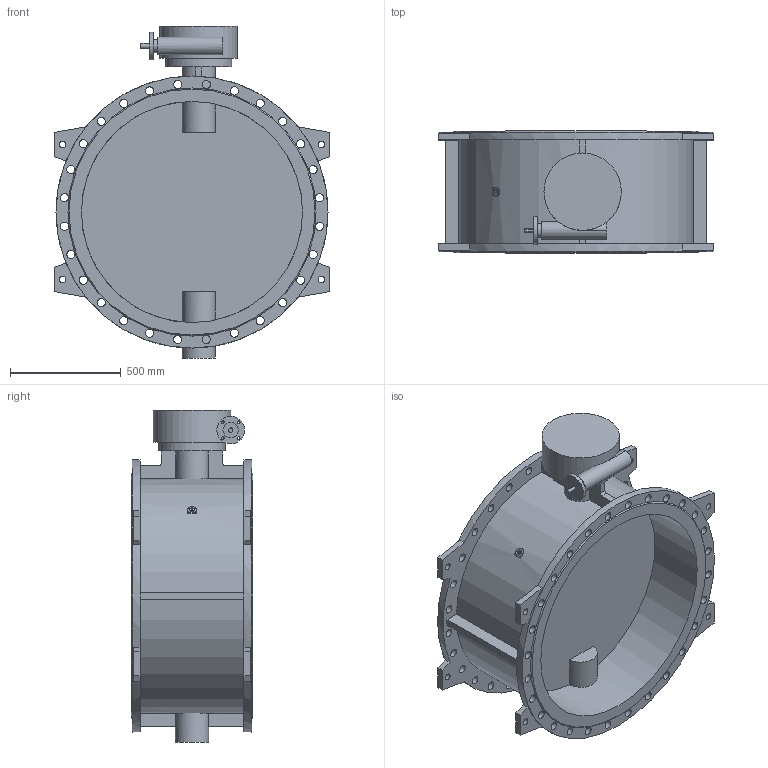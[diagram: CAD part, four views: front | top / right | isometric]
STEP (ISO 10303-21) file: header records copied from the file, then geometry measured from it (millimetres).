
FILE_DESCRIPTION(('STEP AP203'), '1');
FILE_NAME('Çàòâîð 023F.Z DN1000 PN10_ð-ð_ôë', '', ('UNSPECIFIED'), ('UNSPECIFIED'), 'ASCON STEP Converter 1.6', 'ASCON Math Kernel', '');
FILE_SCHEMA(('CONFIG_CONTROL_DESIGN'));
Length unit declared in the file: millimetre
Bounding box: 1240 x 550 x 1501 mm (x, y, z)
Volume: 166954184.9 mm3; surface area: 7425594.8 mm2
Topology: 1 solids, 1 shells, 219 faces, 556 edges, 370 vertices
Faces by surface type: cylinder 114, plane 103, cone 2
Full cylindrical faces by diameter (mm): 12 x4, 14 x8, 18 x8, 20 x1, 30 x8, 37 x56, 60 x1, 70 x1, 80 x1, 125 x1, 150 x1, 300 x1, 350 x1, 1000 x2, 1230 x2
Entity records: 9344 total; most frequent: CARTESIAN_POINT 2201, DIRECTION 1117, ORIENTED_EDGE 908, EDGE_LOOP 485, AXIS2_PLACEMENT_3D 463, EDGE_CURVE 454, VERTEX_POINT 369, FACE_BOUND 294
